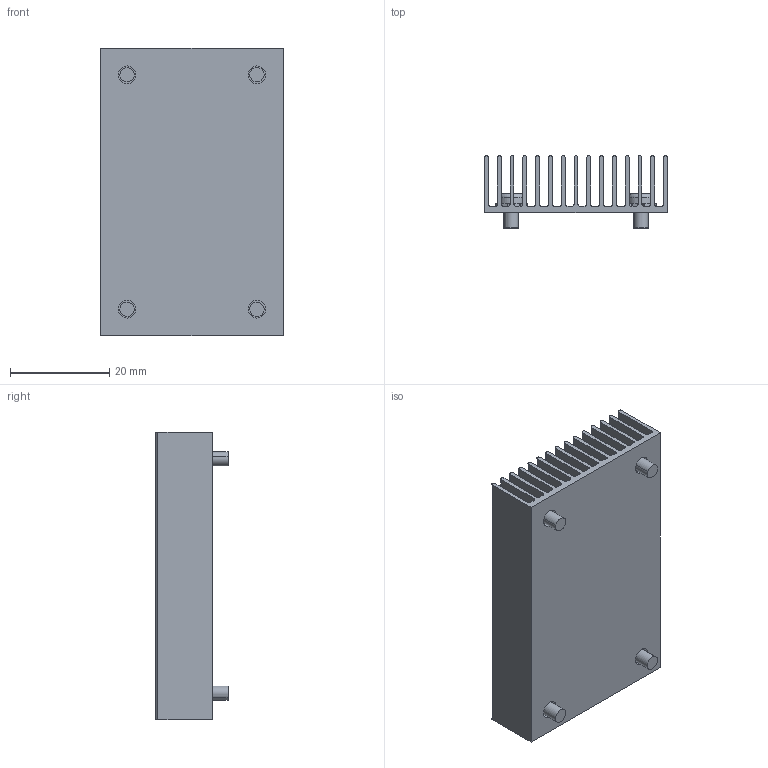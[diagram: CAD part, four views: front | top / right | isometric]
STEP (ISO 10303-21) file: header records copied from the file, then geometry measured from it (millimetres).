
FILE_DESCRIPTION (( 'STEP AP214' ), '1' );
FILE_NAME ('HS1568EBK05.STEP', '2023-03-03T15:53:28', ( '' ), ( '' ), 'SwSTEP 2.0', 'SolidWorks 2020', '' );
FILE_SCHEMA (( 'AUTOMOTIVE_DESIGN' ));
Length unit declared in the file: millimetre
Products named in the file (1): HS1568EBK05
Bounding box: 36.83 x 14.53 x 57.91 mm (x, y, z)
Volume: 9230.8 mm3; surface area: 21519.2 mm2
Topology: 5 solids, 5 shells, 534 faces, 1400 edges, 888 vertices
Faces by surface type: plane 371, cylinder 155, torus 8
Entity records: 23980 total; most frequent: CARTESIAN_POINT 4789, ORIENTED_EDGE 2800, DIRECTION 2700, EDGE_CURVE 1400, LINE 1026, VECTOR 1026, VERTEX_POINT 888, AXIS2_PLACEMENT_3D 837
